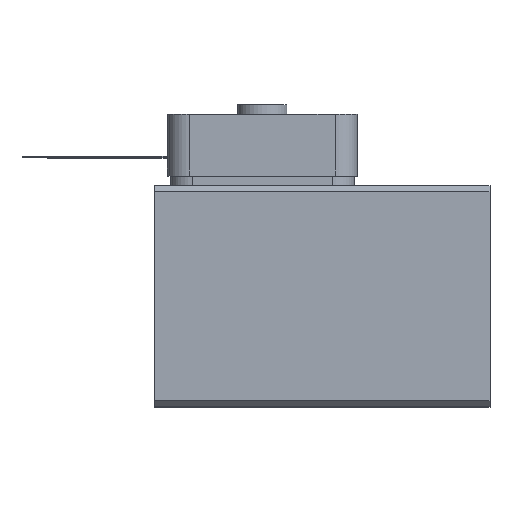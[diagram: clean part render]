
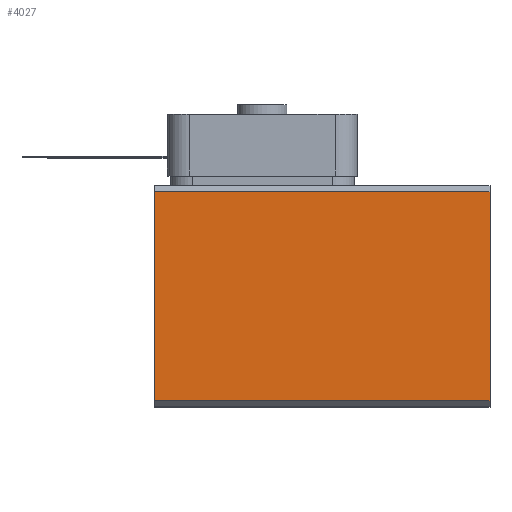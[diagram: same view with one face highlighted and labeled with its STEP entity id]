
A CAD part, top view. The second image highlights one B-rep face of the part: STEP entity #4027.
In plain terms, the highlighted planar face has unit normal (0, 0, 1).
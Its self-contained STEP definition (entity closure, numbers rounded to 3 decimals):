
#88 = CARTESIAN_POINT ( 'NONE',  ( 53., -16.5, 17.5 ) ) ;
#129 = DIRECTION ( 'NONE',  ( 0., 0., -1. ) ) ;
#674 = ORIENTED_EDGE ( 'NONE', *, *, #8717, .F. ) ;
#836 = ORIENTED_EDGE ( 'NONE', *, *, #9925, .T. ) ;
#999 = LINE ( 'NONE', #8105, #1816 ) ;
#1102 = VECTOR ( 'NONE', #7340, 1000. ) ;
#1647 = LINE ( 'NONE', #2894, #1102 ) ;
#1816 = VECTOR ( 'NONE', #8983, 1000. ) ;
#2477 = LINE ( 'NONE', #9119, #11357 ) ;
#2894 = CARTESIAN_POINT ( 'NONE',  ( 53., -16.5, 17.5 ) ) ;
#3466 = EDGE_CURVE ( 'NONE', #3987, #6931, #999, .T. ) ;
#3678 = AXIS2_PLACEMENT_3D ( 'NONE', #5412, #129, #6298 ) ;
#3734 = FACE_OUTER_BOUND ( 'NONE', #8661, .T. ) ;
#3987 = VERTEX_POINT ( 'NONE', #7069 ) ;
#4027 = ADVANCED_FACE ( 'NONE', ( #3734 ), #4453, .F. ) ;
#4453 = PLANE ( 'NONE',  #3678 ) ;
#4699 = DIRECTION ( 'NONE',  ( -1., 0., 0. ) ) ;
#5020 = LINE ( 'NONE', #9103, #7088 ) ;
#5412 = CARTESIAN_POINT ( 'NONE',  ( 53., -17.5, 17.5 ) ) ;
#5494 = VERTEX_POINT ( 'NONE', #10314 ) ;
#6298 = DIRECTION ( 'NONE',  ( -1., 0., 0. ) ) ;
#6931 = VERTEX_POINT ( 'NONE', #8208 ) ;
#7069 = CARTESIAN_POINT ( 'NONE',  ( 0., 16.5, 17.5 ) ) ;
#7088 = VECTOR ( 'NONE', #4699, 1000. ) ;
#7340 = DIRECTION ( 'NONE',  ( 1., 0., 0. ) ) ;
#7881 = EDGE_CURVE ( 'NONE', #5494, #3987, #5020, .T. ) ;
#8087 = ORIENTED_EDGE ( 'NONE', *, *, #3466, .T. ) ;
#8105 = CARTESIAN_POINT ( 'NONE',  ( 0., -17.5, 17.5 ) ) ;
#8208 = CARTESIAN_POINT ( 'NONE',  ( 0., -16.5, 17.5 ) ) ;
#8511 = ORIENTED_EDGE ( 'NONE', *, *, #7881, .T. ) ;
#8661 = EDGE_LOOP ( 'NONE', ( #8087, #836, #674, #8511 ) ) ;
#8717 = EDGE_CURVE ( 'NONE', #5494, #11460, #2477, .T. ) ;
#8983 = DIRECTION ( 'NONE',  ( 0., -1., 0. ) ) ;
#9103 = CARTESIAN_POINT ( 'NONE',  ( 53., 16.5, 17.5 ) ) ;
#9119 = CARTESIAN_POINT ( 'NONE',  ( 53., -17.5, 17.5 ) ) ;
#9925 = EDGE_CURVE ( 'NONE', #6931, #11460, #1647, .T. ) ;
#10007 = DIRECTION ( 'NONE',  ( 0., -1., 0. ) ) ;
#10314 = CARTESIAN_POINT ( 'NONE',  ( 53., 16.5, 17.5 ) ) ;
#11357 = VECTOR ( 'NONE', #10007, 1000. ) ;
#11460 = VERTEX_POINT ( 'NONE', #88 ) ;
